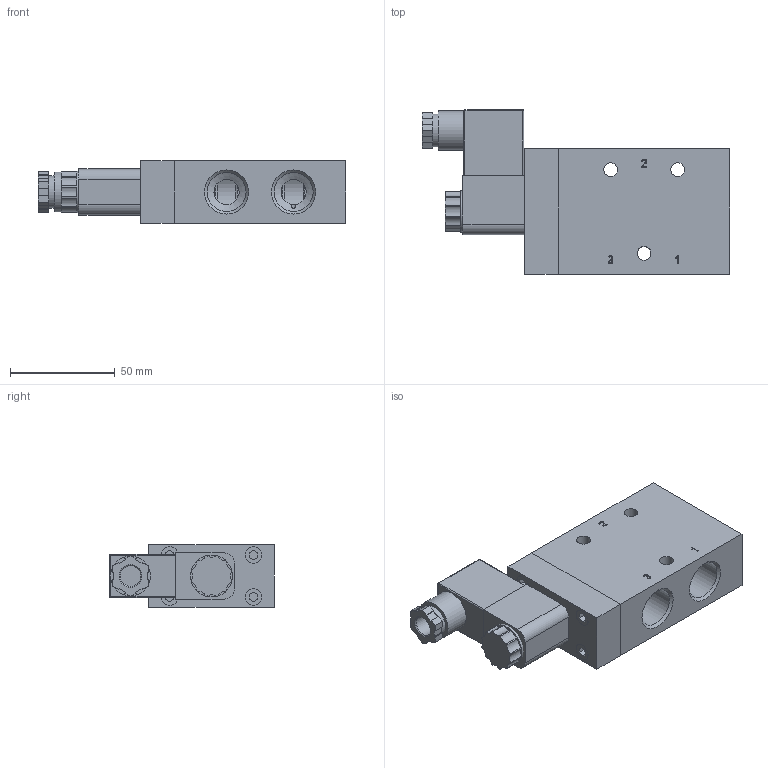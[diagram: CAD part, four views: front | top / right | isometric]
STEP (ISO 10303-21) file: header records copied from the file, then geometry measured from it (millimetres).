
FILE_DESCRIPTION(/* description */ ('Unknown','CAx-IF Rec.Pracs.---Representation and Presentation of Product Manufacturing Information (PMI)---4.0---2014-10-13','CAx-IF Rec.Pracs.---3D Tessellated Geometry---0.4---2014-09-14','2;1'),/* implementation_level */ '2;1');
FILE_NAME(/* name */ 'MH 311 121 + MA 22 24DC + ST22',/* time_stamp */ '2019-06-04T13:59:28+02:00',/* author */ ('Unknown'),/* organization */ ('Unknown'),/* preprocessor_version */ 'ST-DEVELOPER v16.7',/* originating_system */ 'DEX',/* authorisation */ $);
FILE_SCHEMA (('AP242_MANAGED_MODEL_BASED_3D_ENGINEERING_MIM_LF { 1 0 10303 442 20130219 1 4 }'));
Length unit declared in the file: millimetre
Products named in the file (2): MH 311 121 + MA 22 24DC + ST22
Assembly tree (1 placements, depth 2):
  MH 311 121 + MA 22 24DC + ST22
    MH 311 121 + MA 22 24DC + ST22
Bounding box: 147 x 78.7 x 30 mm (x, y, z)
Volume: 171480.3 mm3; surface area: 50582.7 mm2
Topology: 6 solids, 6 shells, 365 faces, 917 edges, 600 vertices
Faces by surface type: plane 216, cylinder 96, cone 26, bspline 20, sphere 5, torus 2
Full cylindrical faces by diameter (mm): 1.5 x3, 2.375 x1, 2.4 x1, 2.459 x2, 3.236 x1, 4.134 x8, 6 x1, 6.1 x1, 6.6 x3, 7.3 x1, 8 x5, 8.15 x1, 8.5 x1, 9 x1, 9.15 x1, 9.75 x1, 11.6 x1, 12 x3, 14.5 x1, 15.6 x1, 16 x2, 16.5 x1, 17 x1, 18.631 x6, 19 x1, 20 x1, 22 x3, 22.1 x1
Entity records: 13116 total; most frequent: CARTESIAN_POINT 2417, DIRECTION 1632, ORIENTED_EDGE 1570, EDGE_CURVE 785, AXIS2_PLACEMENT_3D 565, VERTEX_POINT 561, FACE_BOUND 520, EDGE_LOOP 513
